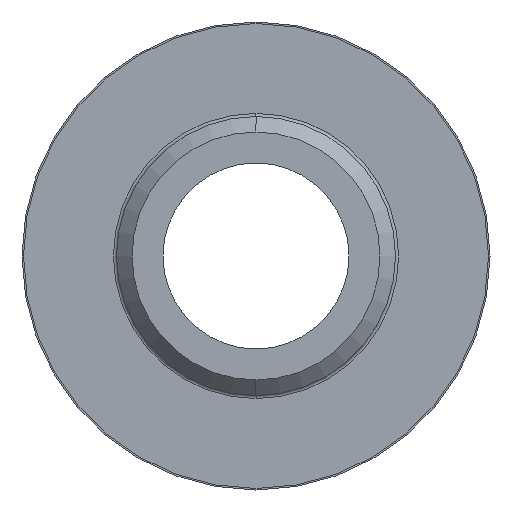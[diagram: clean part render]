
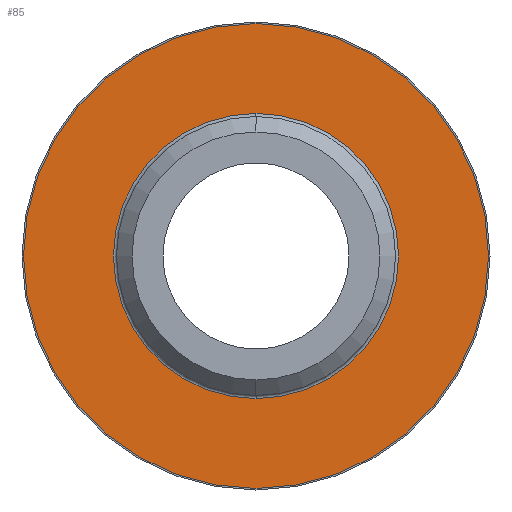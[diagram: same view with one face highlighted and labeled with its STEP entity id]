
A CAD part, left-side view. The second image highlights one B-rep face of the part: STEP entity #85.
In plain terms, the highlighted planar face has unit normal (-1, 0, 0).
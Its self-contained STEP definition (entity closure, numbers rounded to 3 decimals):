
#9 = CARTESIAN_POINT ( 'NONE',  ( 18.5, 0., -15. ) ) ;
#68 = DIRECTION ( 'NONE',  ( 1., 0., 0. ) ) ;
#85 = ADVANCED_FACE ( 'NONE', ( #893, #730 ), #649, .F. ) ;
#89 = DIRECTION ( 'NONE',  ( 0., 0., -1. ) ) ;
#107 = DIRECTION ( 'NONE',  ( -1., 0., 0. ) ) ;
#121 = CIRCLE ( 'NONE', #1148, 9.2 ) ;
#141 = AXIS2_PLACEMENT_3D ( 'NONE', #653, #532, #967 ) ;
#151 = EDGE_CURVE ( 'NONE', #862, #999, #708, .T. ) ;
#271 = EDGE_CURVE ( 'NONE', #999, #862, #121, .T. ) ;
#381 = EDGE_LOOP ( 'NONE', ( #658, #729 ) ) ;
#390 = CARTESIAN_POINT ( 'NONE',  ( 18.5, 0., 0. ) ) ;
#391 = CARTESIAN_POINT ( 'NONE',  ( 18.5, 9., 0. ) ) ;
#427 = CIRCLE ( 'NONE', #1211, 15. ) ;
#443 = CIRCLE ( 'NONE', #1129, 15. ) ;
#465 = DIRECTION ( 'NONE',  ( 0., 0., 1. ) ) ;
#501 = DIRECTION ( 'NONE',  ( -1., 0., 0. ) ) ;
#503 = AXIS2_PLACEMENT_3D ( 'NONE', #391, #673, #1150 ) ;
#532 = DIRECTION ( 'NONE',  ( 1., 0., 0. ) ) ;
#573 = CARTESIAN_POINT ( 'NONE',  ( 18.5, 0., 0. ) ) ;
#649 = PLANE ( 'NONE',  #503 ) ;
#653 = CARTESIAN_POINT ( 'NONE',  ( 18.5, 0., 0. ) ) ;
#658 = ORIENTED_EDGE ( 'NONE', *, *, #271, .T. ) ;
#673 = DIRECTION ( 'NONE',  ( 1., 0., 0. ) ) ;
#687 = DIRECTION ( 'NONE',  ( 0., 0., 1. ) ) ;
#708 = CIRCLE ( 'NONE', #141, 9.2 ) ;
#729 = ORIENTED_EDGE ( 'NONE', *, *, #151, .T. ) ;
#730 = FACE_OUTER_BOUND ( 'NONE', #832, .T. ) ;
#743 = CARTESIAN_POINT ( 'NONE',  ( 18.5, 0., 0. ) ) ;
#763 = CARTESIAN_POINT ( 'NONE',  ( 18.5, 0., 9.2 ) ) ;
#766 = CARTESIAN_POINT ( 'NONE',  ( 18.5, 0., 15. ) ) ;
#796 = VERTEX_POINT ( 'NONE', #9 ) ;
#801 = ORIENTED_EDGE ( 'NONE', *, *, #891, .T. ) ;
#807 = ORIENTED_EDGE ( 'NONE', *, *, #833, .T. ) ;
#832 = EDGE_LOOP ( 'NONE', ( #801, #807 ) ) ;
#833 = EDGE_CURVE ( 'NONE', #796, #985, #427, .T. ) ;
#862 = VERTEX_POINT ( 'NONE', #763 ) ;
#891 = EDGE_CURVE ( 'NONE', #985, #796, #443, .T. ) ;
#893 = FACE_BOUND ( 'NONE', #381, .T. ) ;
#967 = DIRECTION ( 'NONE',  ( 0., 0., -1. ) ) ;
#985 = VERTEX_POINT ( 'NONE', #766 ) ;
#999 = VERTEX_POINT ( 'NONE', #1126 ) ;
#1126 = CARTESIAN_POINT ( 'NONE',  ( 18.5, 0., -9.2 ) ) ;
#1129 = AXIS2_PLACEMENT_3D ( 'NONE', #743, #501, #465 ) ;
#1148 = AXIS2_PLACEMENT_3D ( 'NONE', #573, #68, #89 ) ;
#1150 = DIRECTION ( 'NONE',  ( 0., 0., -1. ) ) ;
#1211 = AXIS2_PLACEMENT_3D ( 'NONE', #390, #107, #687 ) ;
